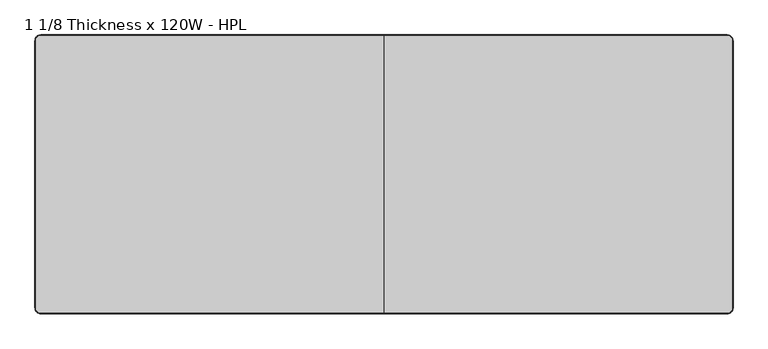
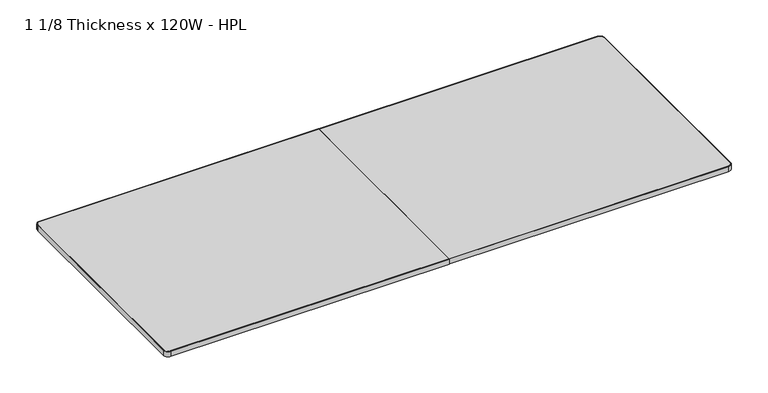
"""IFC4 building model written with IfcOpenShell, lengths in millimetres: furniture geometry, Steelcase - Groupwork - Table - Conference Table Top - Rectangular : 1 1/8 Thickness x 120W - HPL."""

from ifc_helpers import new_model, si_unit, point, frame, frame_2d, origin, place, context, project, spatial, polyline, circle_curve, trimmed, segment, composite_curve, outline, extrude, source, transform, mapped, element, save


def furniture_1_1_8_thickness_x_120w_hpl_d0bc5441(model_context):
    return source(origin(), model_context, "Body", "SweptSolid", [
        extrude(outline(composite_curve([segment(trimmed(circle_curve(frame_2d((-1526.54, -583.74)), 22.86), [point((-1526.54, -606.6))], [point((-1549.4, -583.74))], False, "CARTESIAN"), True, "CONTINUOUS"), segment(polyline([(-1549.4, -583.74), (-1549.4, 583.74)]), True, "CONTINUOUS"), segment(trimmed(circle_curve(frame_2d((-1526.54, 583.74)), 22.86), [point((-1549.4, 583.74))], [point((-1526.54, 606.6))], False, "CARTESIAN"), True, "CONTINUOUS"), segment(polyline([(-1526.54, 606.6), (-29.7587236, 606.6), (-29.7587236, -606.6), (-1526.54, -606.6)]), True, "CONTINUOUS")], self_intersect=False)), frame((0.0, 0.0, 694.944), z_axis=(0.0, 0.0, 1.0), x_axis=(1.0, 0.0, 0.0)), (0.0, 0.0, 1.0), 28.956),
        extrude(outline(composite_curve([segment(trimmed(circle_curve(frame_2d((1469.74, 583.74)), 22.86), [point((1469.74, 606.6))], [point((1492.6, 583.74))], False, "CARTESIAN"), True, "CONTINUOUS"), segment(polyline([(1492.6, 583.74), (1492.6, -583.74)]), True, "CONTINUOUS"), segment(trimmed(circle_curve(frame_2d((1469.74, -583.74)), 22.86), [point((1492.6, -583.74))], [point((1469.74, -606.6))], False, "CARTESIAN"), True, "CONTINUOUS"), segment(polyline([(1469.74, -606.6), (-27.2187236, -606.6), (-27.2187236, 606.6), (1469.74, 606.6)]), True, "CONTINUOUS")], self_intersect=False)), frame((0.0, 0.0, 694.944), z_axis=(0.0, 0.0, 1.0), x_axis=(1.0, 0.0, 0.0)), (0.0, 0.0, 1.0), 28.956),
        extrude(outline(composite_curve([segment(trimmed(circle_curve(frame_2d((-1527.0, -584.2)), 25.4), [point((-1527.0, -609.6))], [point((-1552.4, -584.2))], False, "CARTESIAN"), True, "CONTINUOUS"), segment(polyline([(-1552.4, -584.2), (-1552.4, 584.2)]), True, "CONTINUOUS"), segment(trimmed(circle_curve(frame_2d((-1527.0, 584.2)), 25.4), [point((-1552.4, 584.2))], [point((-1527.0, 609.6))], False, "CARTESIAN"), True, "CONTINUOUS"), segment(polyline([(-1527.0, 609.6), (-29.7587236, 609.6), (-29.7587236, 606.6), (-1526.54, 606.6)]), True, "CONTINUOUS"), segment(trimmed(circle_curve(frame_2d((-1526.54, 583.74)), 22.86), [point((-1526.54, 606.6))], [point((-1549.4, 583.74))], True, "CARTESIAN"), True, "CONTINUOUS"), segment(polyline([(-1549.4, 583.74), (-1549.4, -583.74)]), True, "CONTINUOUS"), segment(trimmed(circle_curve(frame_2d((-1526.54, -583.74)), 22.86), [point((-1549.4, -583.74))], [point((-1526.54, -606.6))], True, "CARTESIAN"), True, "CONTINUOUS"), segment(polyline([(-1526.54, -606.6), (-29.7587236, -606.6), (-29.7587236, -609.6), (-1527.0, -609.6)]), True, "CONTINUOUS")], self_intersect=False)), frame((0.0, 0.0, 694.944), z_axis=(0.0, 0.0, 1.0), x_axis=(1.0, 0.0, 0.0)), (0.0, 0.0, 1.0), 28.956),
        extrude(outline(composite_curve([segment(trimmed(circle_curve(frame_2d((1470.1385373, 584.1385373)), 25.4614627), [point((1470.1385373, 609.6))], [point((1495.6, 584.1385373))], False, "CARTESIAN"), True, "CONTINUOUS"), segment(polyline([(1495.6, 584.1385373), (1495.6, -584.2211297)]), True, "CONTINUOUS"), segment(trimmed(circle_curve(frame_2d((1470.2211297, -584.2211297)), 25.3788703), [point((1495.6, -584.2211297))], [point((1470.2211297, -609.6))], False, "CARTESIAN"), True, "CONTINUOUS"), segment(polyline([(1470.2211297, -609.6), (-27.2187236, -609.6), (-27.2187236, -606.6), (1469.573488, -606.6)]), True, "CONTINUOUS"), segment(trimmed(circle_curve(frame_2d((1469.573488, -583.573488)), 23.026512), [point((1469.573488, -606.6))], [point((1492.6, -583.573488))], True, "CARTESIAN"), True, "CONTINUOUS"), segment(polyline([(1492.6, -583.573488), (1492.6, 583.8064662)]), True, "CONTINUOUS"), segment(trimmed(circle_curve(frame_2d((1469.8064662, 583.8064662)), 22.7935338), [point((1492.6, 583.8064662))], [point((1469.8064662, 606.6))], True, "CARTESIAN"), True, "CONTINUOUS"), segment(polyline([(1469.8064662, 606.6), (-27.2187236, 606.6), (-27.2187236, 609.6), (1470.1385373, 609.6)]), True, "CONTINUOUS")], self_intersect=False)), frame((0.0, 0.0, 694.944), z_axis=(0.0, 0.0, 1.0), x_axis=(1.0, 0.0, 0.0)), (0.0, 0.0, 1.0), 28.956),
    ])


if __name__ == "__main__":
    model = new_model("IFC4")
    model_context = context("Model", 3, world=origin())
    ifc_project = project(units=[si_unit("LENGTHUNIT", "METRE", prefix="MILLI")], contexts=[model_context])
    site = spatial("IfcSite", under=ifc_project)
    building = spatial("IfcBuilding", under=site)
    placement = place(None, origin())
    furniture_1_1_8_thickness_x_120w_hpl_shape = furniture_1_1_8_thickness_x_120w_hpl_d0bc5441(model_context)
    element("IfcFurniture", 1, ObjectType="Steelcase - Groupwork - Table - Conference Table Top - Rectangular : 1 1/8 Thickness x 120W - HPL", at=placement, inside=building, context=model_context, shape_type="MappedRepresentation", body=[
        mapped(furniture_1_1_8_thickness_x_120w_hpl_shape, transform((0.0, 0.0, 0.0), x_axis=(1.0, 0.0, 0.0), y_axis=(0.0, 1.0, 0.0), z_axis=(0.0, 0.0, 1.0))),
    ])
    save(model, "model.ifc")
